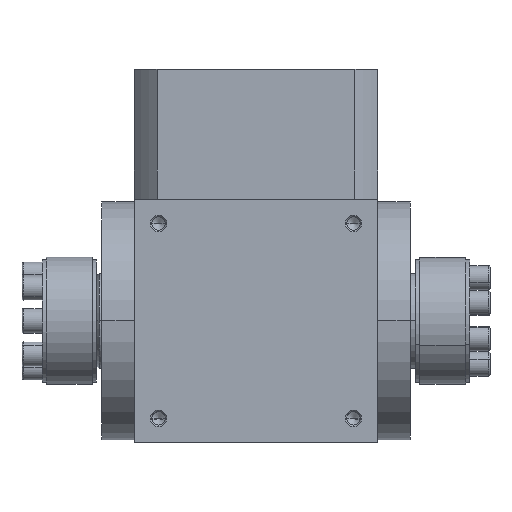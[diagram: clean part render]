
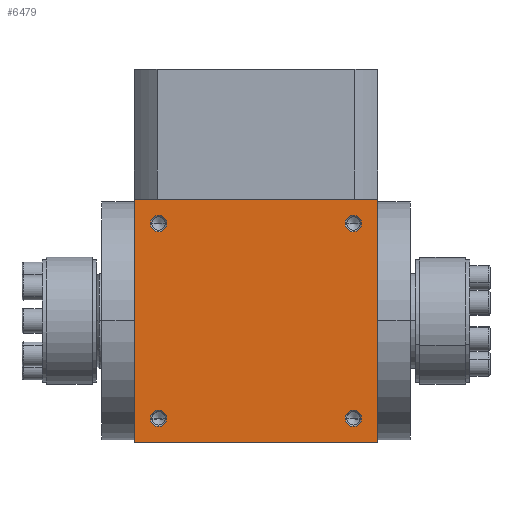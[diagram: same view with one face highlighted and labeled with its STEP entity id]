
A CAD part, front view. The second image highlights one B-rep face of the part: STEP entity #6479.
In plain terms, the highlighted planar face has unit normal (0, -1, 0).
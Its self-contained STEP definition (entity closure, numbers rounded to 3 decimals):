
#168 = VECTOR ( 'NONE', #18466, 1000. ) ;
#277 = CARTESIAN_POINT ( 'NONE',  ( -85.067, -43.292, 200. ) ) ;
#327 = DIRECTION ( 'NONE',  ( -1., 0., 0. ) ) ;
#518 = EDGE_CURVE ( 'NONE', #770, #7126, #6888, .T. ) ;
#744 = CARTESIAN_POINT ( 'NONE',  ( -82.042, -43.292, 200. ) ) ;
#770 = VERTEX_POINT ( 'NONE', #15592 ) ;
#957 = CIRCLE ( 'NONE', #15295, 3.025 ) ;
#979 = CARTESIAN_POINT ( 'NONE',  ( -46.042, -43.292, 164. ) ) ;
#1236 = EDGE_CURVE ( 'NONE', #22105, #16627, #12378, .T. ) ;
#1336 = DIRECTION ( 'NONE',  ( -1., 0., 0. ) ) ;
#1748 = CARTESIAN_POINT ( 'NONE',  ( -10.042, -43.292, 128. ) ) ;
#1787 = EDGE_LOOP ( 'NONE', ( #20400, #23398, #19447, #7324 ) ) ;
#1951 = ORIENTED_EDGE ( 'NONE', *, *, #5384, .F. ) ;
#2222 = EDGE_CURVE ( 'NONE', #20128, #5895, #16777, .T. ) ;
#2449 = DIRECTION ( 'NONE',  ( -1., 0., 0. ) ) ;
#2582 = ORIENTED_EDGE ( 'NONE', *, *, #15033, .F. ) ;
#2744 = CARTESIAN_POINT ( 'NONE',  ( -82.042, -43.292, 128. ) ) ;
#3128 = DIRECTION ( 'NONE',  ( 1., 0., 0. ) ) ;
#3239 = EDGE_CURVE ( 'NONE', #5895, #20128, #8021, .T. ) ;
#3700 = DIRECTION ( 'NONE',  ( -1., 0., 0. ) ) ;
#4158 = ORIENTED_EDGE ( 'NONE', *, *, #21537, .F. ) ;
#4511 = DIRECTION ( 'NONE',  ( 1., 0., 0. ) ) ;
#5083 = VERTEX_POINT ( 'NONE', #13020 ) ;
#5384 = EDGE_CURVE ( 'NONE', #5083, #17365, #23053, .T. ) ;
#5431 = DIRECTION ( 'NONE',  ( 0., -1., 0. ) ) ;
#5488 = CARTESIAN_POINT ( 'NONE',  ( -1.042, -43.292, 119. ) ) ;
#5576 = CIRCLE ( 'NONE', #10234, 3.025 ) ;
#5611 = LINE ( 'NONE', #11070, #168 ) ;
#5895 = VERTEX_POINT ( 'NONE', #11348 ) ;
#6262 = DIRECTION ( 'NONE',  ( -1., 0., 0. ) ) ;
#6458 = PLANE ( 'NONE',  #10684 ) ;
#6479 = ADVANCED_FACE ( 'NONE', ( #15555, #10333, #8155, #23073, #22949 ), #6458, .F. ) ;
#6489 = VERTEX_POINT ( 'NONE', #15787 ) ;
#6505 = DIRECTION ( 'NONE',  ( 0., -1., 0. ) ) ;
#6888 = LINE ( 'NONE', #17899, #6951 ) ;
#6951 = VECTOR ( 'NONE', #3700, 1000. ) ;
#7065 = AXIS2_PLACEMENT_3D ( 'NONE', #16956, #15257, #327 ) ;
#7100 = DIRECTION ( 'NONE',  ( -1., 0., 0. ) ) ;
#7126 = VERTEX_POINT ( 'NONE', #23412 ) ;
#7200 = CARTESIAN_POINT ( 'NONE',  ( -7.017, -43.292, 128. ) ) ;
#7324 = ORIENTED_EDGE ( 'NONE', *, *, #1236, .F. ) ;
#7629 = DIRECTION ( 'NONE',  ( -1., 0., 0. ) ) ;
#8021 = CIRCLE ( 'NONE', #13830, 3.025 ) ;
#8155 = FACE_BOUND ( 'NONE', #15294, .T. ) ;
#8986 = DIRECTION ( 'NONE',  ( 0., -1., 0. ) ) ;
#9299 = EDGE_CURVE ( 'NONE', #19891, #16877, #957, .T. ) ;
#9444 = VECTOR ( 'NONE', #12671, 1000. ) ;
#9483 = ORIENTED_EDGE ( 'NONE', *, *, #2222, .F. ) ;
#9576 = CARTESIAN_POINT ( 'NONE',  ( -1.042, -43.292, 209. ) ) ;
#9662 = ORIENTED_EDGE ( 'NONE', *, *, #9299, .F. ) ;
#10111 = AXIS2_PLACEMENT_3D ( 'NONE', #744, #15319, #2449 ) ;
#10234 = AXIS2_PLACEMENT_3D ( 'NONE', #22042, #5431, #7629 ) ;
#10333 = FACE_BOUND ( 'NONE', #18886, .T. ) ;
#10684 = AXIS2_PLACEMENT_3D ( 'NONE', #979, #11669, #4511 ) ;
#10733 = DIRECTION ( 'NONE',  ( 0., -1., 0. ) ) ;
#10834 = ORIENTED_EDGE ( 'NONE', *, *, #3239, .F. ) ;
#11070 = CARTESIAN_POINT ( 'NONE',  ( -91.042, -43.292, 119. ) ) ;
#11348 = CARTESIAN_POINT ( 'NONE',  ( -13.067, -43.292, 128. ) ) ;
#11469 = EDGE_CURVE ( 'NONE', #12677, #6489, #5576, .T. ) ;
#11669 = DIRECTION ( 'NONE',  ( 0., 1., 0. ) ) ;
#12378 = LINE ( 'NONE', #19756, #23495 ) ;
#12671 = DIRECTION ( 'NONE',  ( 0., 0., -1. ) ) ;
#12677 = VERTEX_POINT ( 'NONE', #16596 ) ;
#13020 = CARTESIAN_POINT ( 'NONE',  ( -13.067, -43.292, 200. ) ) ;
#13049 = DIRECTION ( 'NONE',  ( 0., -1., 0. ) ) ;
#13405 = EDGE_CURVE ( 'NONE', #16627, #770, #18348, .T. ) ;
#13830 = AXIS2_PLACEMENT_3D ( 'NONE', #19591, #6505, #6262 ) ;
#14189 = EDGE_LOOP ( 'NONE', ( #4158, #9662 ) ) ;
#14405 = CIRCLE ( 'NONE', #7065, 3.025 ) ;
#14499 = DIRECTION ( 'NONE',  ( -1., 0., 0. ) ) ;
#15033 = EDGE_CURVE ( 'NONE', #6489, #12677, #18689, .T. ) ;
#15160 = DIRECTION ( 'NONE',  ( 0., -1., 0. ) ) ;
#15257 = DIRECTION ( 'NONE',  ( 0., -1., 0. ) ) ;
#15294 = EDGE_LOOP ( 'NONE', ( #18270, #2582 ) ) ;
#15295 = AXIS2_PLACEMENT_3D ( 'NONE', #16433, #13049, #14499 ) ;
#15319 = DIRECTION ( 'NONE',  ( 0., -1., 0. ) ) ;
#15555 = FACE_BOUND ( 'NONE', #20764, .T. ) ;
#15592 = CARTESIAN_POINT ( 'NONE',  ( -1.042, -43.292, 119. ) ) ;
#15787 = CARTESIAN_POINT ( 'NONE',  ( -79.017, -43.292, 128. ) ) ;
#16353 = ORIENTED_EDGE ( 'NONE', *, *, #20527, .F. ) ;
#16433 = CARTESIAN_POINT ( 'NONE',  ( -82.042, -43.292, 200. ) ) ;
#16596 = CARTESIAN_POINT ( 'NONE',  ( -85.067, -43.292, 128. ) ) ;
#16627 = VERTEX_POINT ( 'NONE', #9576 ) ;
#16777 = CIRCLE ( 'NONE', #23359, 3.025 ) ;
#16877 = VERTEX_POINT ( 'NONE', #277 ) ;
#16956 = CARTESIAN_POINT ( 'NONE',  ( -10.042, -43.292, 200. ) ) ;
#17365 = VERTEX_POINT ( 'NONE', #18452 ) ;
#17899 = CARTESIAN_POINT ( 'NONE',  ( -91.042, -43.292, 119. ) ) ;
#17947 = CARTESIAN_POINT ( 'NONE',  ( -10.042, -43.292, 200. ) ) ;
#18270 = ORIENTED_EDGE ( 'NONE', *, *, #11469, .F. ) ;
#18348 = LINE ( 'NONE', #5488, #9444 ) ;
#18452 = CARTESIAN_POINT ( 'NONE',  ( -7.017, -43.292, 200. ) ) ;
#18466 = DIRECTION ( 'NONE',  ( 0., 0., 1. ) ) ;
#18689 = CIRCLE ( 'NONE', #21792, 3.025 ) ;
#18886 = EDGE_LOOP ( 'NONE', ( #1951, #16353 ) ) ;
#19447 = ORIENTED_EDGE ( 'NONE', *, *, #13405, .F. ) ;
#19591 = CARTESIAN_POINT ( 'NONE',  ( -10.042, -43.292, 128. ) ) ;
#19756 = CARTESIAN_POINT ( 'NONE',  ( -91.042, -43.292, 209. ) ) ;
#19791 = CIRCLE ( 'NONE', #10111, 3.025 ) ;
#19891 = VERTEX_POINT ( 'NONE', #21156 ) ;
#20128 = VERTEX_POINT ( 'NONE', #7200 ) ;
#20150 = EDGE_CURVE ( 'NONE', #7126, #22105, #5611, .T. ) ;
#20400 = ORIENTED_EDGE ( 'NONE', *, *, #20150, .F. ) ;
#20527 = EDGE_CURVE ( 'NONE', #17365, #5083, #14405, .T. ) ;
#20764 = EDGE_LOOP ( 'NONE', ( #10834, #9483 ) ) ;
#21131 = AXIS2_PLACEMENT_3D ( 'NONE', #17947, #8986, #1336 ) ;
#21156 = CARTESIAN_POINT ( 'NONE',  ( -79.017, -43.292, 200. ) ) ;
#21537 = EDGE_CURVE ( 'NONE', #16877, #19891, #19791, .T. ) ;
#21792 = AXIS2_PLACEMENT_3D ( 'NONE', #2744, #15160, #22556 ) ;
#22042 = CARTESIAN_POINT ( 'NONE',  ( -82.042, -43.292, 128. ) ) ;
#22105 = VERTEX_POINT ( 'NONE', #23749 ) ;
#22556 = DIRECTION ( 'NONE',  ( -1., 0., 0. ) ) ;
#22949 = FACE_OUTER_BOUND ( 'NONE', #1787, .T. ) ;
#23053 = CIRCLE ( 'NONE', #21131, 3.025 ) ;
#23073 = FACE_BOUND ( 'NONE', #14189, .T. ) ;
#23359 = AXIS2_PLACEMENT_3D ( 'NONE', #1748, #10733, #7100 ) ;
#23398 = ORIENTED_EDGE ( 'NONE', *, *, #518, .F. ) ;
#23412 = CARTESIAN_POINT ( 'NONE',  ( -91.042, -43.292, 119. ) ) ;
#23495 = VECTOR ( 'NONE', #3128, 1000. ) ;
#23749 = CARTESIAN_POINT ( 'NONE',  ( -91.042, -43.292, 209. ) ) ;
